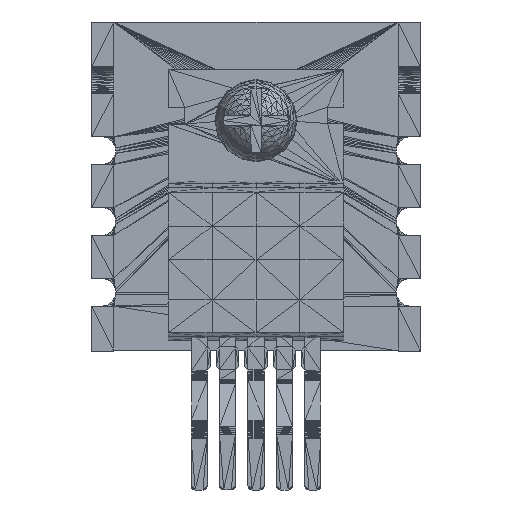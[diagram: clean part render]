
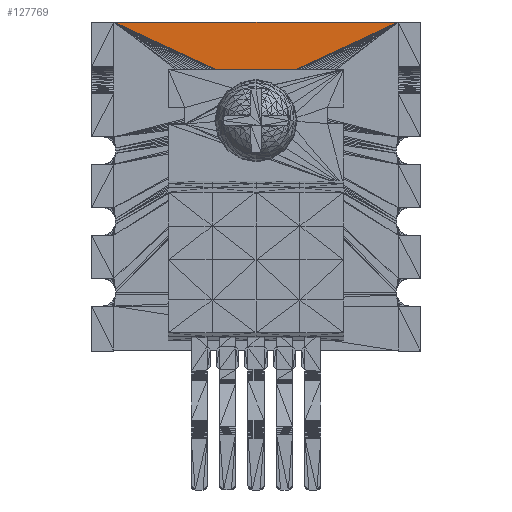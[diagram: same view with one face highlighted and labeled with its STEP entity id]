
A CAD part, front view. The second image highlights one B-rep face of the part: STEP entity #127769.
In plain terms, the highlighted planar face has unit normal (0, -1, 0).
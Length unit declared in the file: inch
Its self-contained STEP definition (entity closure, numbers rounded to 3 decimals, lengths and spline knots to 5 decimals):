
#127738=CARTESIAN_POINT('',(0.,0.30873,0.84748));
#127739=DIRECTION('',(0.,1.,0.));
#127740=DIRECTION('',(1.,0.,0.));
#127741=AXIS2_PLACEMENT_3D('',#127738,#127739,#127740);
#127742=PLANE('',#127741);
#127743=CARTESIAN_POINT('',(0.,0.30873,0.84748));
#127744=VERTEX_POINT('',#127743);
#127745=CARTESIAN_POINT('',(0.32382,0.30867,0.99748));
#127746=VERTEX_POINT('',#127745);
#127747=CARTESIAN_POINT('',(0.,0.30873,0.84748));
#127748=DIRECTION('',(0.907,0.,0.42));
#127749=VECTOR('',#127748,0.35687);
#127750=LINE('',#127747,#127749);
#127751=EDGE_CURVE('',#127744,#127746,#127750,.T.);
#127752=ORIENTED_EDGE('',*,*,#127751,.T.);
#127753=CARTESIAN_POINT('',(-0.32382,0.30867,0.99748));
#127754=VERTEX_POINT('',#127753);
#127755=CARTESIAN_POINT('',(-0.32382,0.30867,0.99748));
#127756=DIRECTION('',(1.,0.,-0.));
#127757=VECTOR('',#127756,0.64764);
#127758=LINE('',#127755,#127757);
#127759=EDGE_CURVE('',#127754,#127746,#127758,.T.);
#127760=ORIENTED_EDGE('',*,*,#127759,.F.);
#127761=CARTESIAN_POINT('',(0.,0.30873,0.84748));
#127762=DIRECTION('',(-0.907,0.,0.42));
#127763=VECTOR('',#127762,0.35687);
#127764=LINE('',#127761,#127763);
#127765=EDGE_CURVE('',#127744,#127754,#127764,.T.);
#127766=ORIENTED_EDGE('',*,*,#127765,.F.);
#127767=EDGE_LOOP('',(#127752,#127760,#127766));
#127768=FACE_BOUND('',#127767,.T.);
#127769=ADVANCED_FACE('',(#127768),#127742,.F.);
